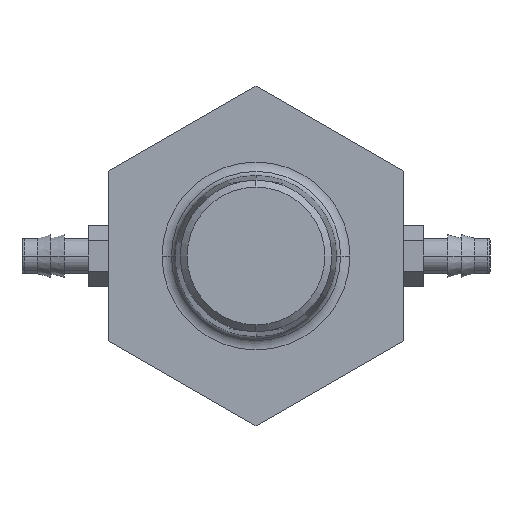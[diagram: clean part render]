
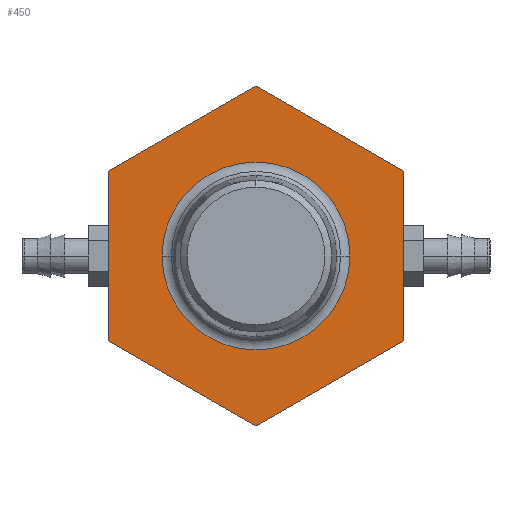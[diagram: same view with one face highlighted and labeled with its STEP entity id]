
A CAD part, left-side view. The second image highlights one B-rep face of the part: STEP entity #450.
In plain terms, the highlighted planar face has unit normal (-1, 0, 0).
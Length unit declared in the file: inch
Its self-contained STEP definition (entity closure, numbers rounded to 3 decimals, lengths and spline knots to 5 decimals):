
#200=DIRECTION('',(0.,0.866,-0.5));
#201=VECTOR('',#200,0.79386);
#202=CARTESIAN_POINT('',(-2.75,0.,0.79386));
#203=LINE('',#202,#201);
#204=DIRECTION('',(0.,0.866,0.5));
#205=VECTOR('',#204,0.79386);
#206=CARTESIAN_POINT('',(-2.75,-0.6875,0.39693));
#207=LINE('',#206,#205);
#208=DIRECTION('',(0.,0.,1.));
#209=VECTOR('',#208,0.79386);
#210=CARTESIAN_POINT('',(-2.75,-0.6875,-0.39693));
#211=LINE('',#210,#209);
#212=DIRECTION('',(0.,-0.866,0.5));
#213=VECTOR('',#212,0.79386);
#214=CARTESIAN_POINT('',(-2.75,0.,-0.79386));
#215=LINE('',#214,#213);
#216=DIRECTION('',(0.,-0.866,-0.5));
#217=VECTOR('',#216,0.79386);
#218=CARTESIAN_POINT('',(-2.75,0.6875,-0.39693));
#219=LINE('',#218,#217);
#220=DIRECTION('',(0.,0.,-1.));
#221=VECTOR('',#220,0.79386);
#222=CARTESIAN_POINT('',(-2.75,0.6875,0.39693));
#223=LINE('',#222,#221);
#224=CARTESIAN_POINT('',(-2.75,0.,0.));
#225=DIRECTION('',(1.,0.,0.));
#226=DIRECTION('',(0.,0.,1.));
#227=AXIS2_PLACEMENT_3D('',#224,#225,#226);
#229=CARTESIAN_POINT('',(-2.75,0.,0.));
#230=DIRECTION('',(1.,0.,0.));
#231=DIRECTION('',(0.,1.,0.));
#232=AXIS2_PLACEMENT_3D('',#229,#230,#231);
#234=CARTESIAN_POINT('',(-2.75,0.,0.));
#235=DIRECTION('',(1.,0.,0.));
#236=DIRECTION('',(0.,-1.,0.));
#237=AXIS2_PLACEMENT_3D('',#234,#235,#236);
#373=CARTESIAN_POINT('',(-2.75,0.,0.79386));
#374=CARTESIAN_POINT('',(-2.75,0.6875,0.39693));
#375=VERTEX_POINT('',#373);
#376=VERTEX_POINT('',#374);
#381=CARTESIAN_POINT('',(-2.75,0.6875,-0.39693));
#382=VERTEX_POINT('',#381);
#383=CARTESIAN_POINT('',(-2.75,-0.6875,0.39693));
#384=VERTEX_POINT('',#383);
#387=CARTESIAN_POINT('',(-2.75,0.,-0.79386));
#388=VERTEX_POINT('',#387);
#389=CARTESIAN_POINT('',(-2.75,-0.6875,-0.39693));
#390=VERTEX_POINT('',#389);
#397=CARTESIAN_POINT('',(-2.75,0.43896,0.));
#399=VERTEX_POINT('',#397);
#403=CARTESIAN_POINT('',(-2.75,-0.43896,0.));
#404=VERTEX_POINT('',#403);
#409=CARTESIAN_POINT('',(-2.75,0.,0.43896));
#410=VERTEX_POINT('',#409);
#423=CARTESIAN_POINT('',(-2.75,0.,0.));
#424=DIRECTION('',(-1.,0.,0.));
#425=DIRECTION('',(0.,0.,1.));
#426=AXIS2_PLACEMENT_3D('',#423,#424,#425);
#427=PLANE('',#426);
#429=ORIENTED_EDGE('',*,*,#428,.F.);
#431=ORIENTED_EDGE('',*,*,#430,.F.);
#433=ORIENTED_EDGE('',*,*,#432,.F.);
#435=ORIENTED_EDGE('',*,*,#434,.F.);
#437=ORIENTED_EDGE('',*,*,#436,.F.);
#439=ORIENTED_EDGE('',*,*,#438,.F.);
#440=EDGE_LOOP('',(#429,#431,#433,#435,#437,#439));
#441=FACE_OUTER_BOUND('',#440,.F.);
#443=ORIENTED_EDGE('',*,*,#442,.F.);
#445=ORIENTED_EDGE('',*,*,#444,.F.);
#447=ORIENTED_EDGE('',*,*,#446,.F.);
#448=EDGE_LOOP('',(#443,#445,#447));
#449=FACE_BOUND('',#448,.F.);
#228=CIRCLE('',#227,0.43896);
#233=CIRCLE('',#232,0.43896);
#238=CIRCLE('',#237,0.43896);
#428=EDGE_CURVE('',#375,#376,#203,.T.);
#430=EDGE_CURVE('',#384,#375,#207,.T.);
#432=EDGE_CURVE('',#390,#384,#211,.T.);
#434=EDGE_CURVE('',#388,#390,#215,.T.);
#436=EDGE_CURVE('',#382,#388,#219,.T.);
#438=EDGE_CURVE('',#376,#382,#223,.T.);
#442=EDGE_CURVE('',#410,#404,#228,.T.);
#444=EDGE_CURVE('',#399,#410,#233,.T.);
#446=EDGE_CURVE('',#404,#399,#238,.T.);
#450=ADVANCED_FACE('',(#441,#449),#427,.T.);
